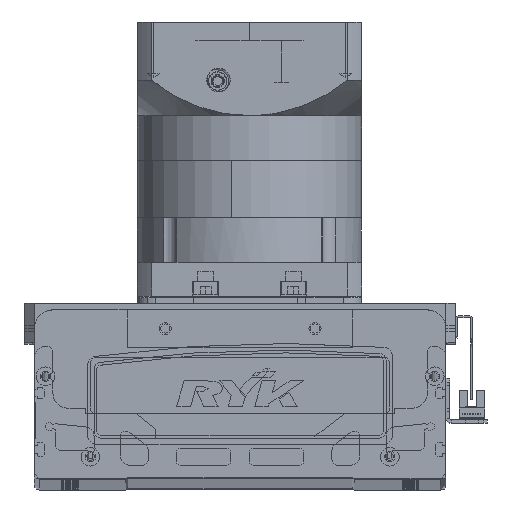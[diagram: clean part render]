
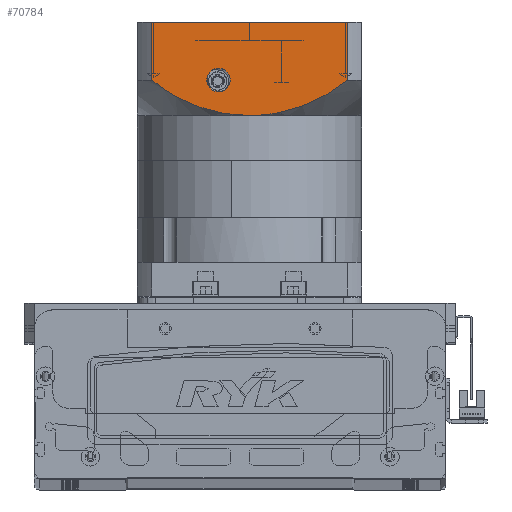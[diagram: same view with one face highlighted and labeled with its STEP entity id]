
A CAD part, top view. The second image highlights one B-rep face of the part: STEP entity #70784.
In plain terms, the highlighted planar face has unit normal (0, 0, 1) as drawn and (0, -1, 0) by its records, which use the part's own axes.
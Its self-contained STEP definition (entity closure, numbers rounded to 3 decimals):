
#3421 = CARTESIAN_POINT ( 'NONE',  ( 23.329, -60., -103.886 ) ) ;
#3681 = CARTESIAN_POINT ( 'NONE',  ( 32.196, -60., -107.007 ) ) ;
#3725 = CIRCLE ( 'NONE', #60860, 6.25 ) ;
#4076 = CARTESIAN_POINT ( 'NONE',  ( -44.656, -60., -113.73 ) ) ;
#4114 = ORIENTED_EDGE ( 'NONE', *, *, #22935, .T. ) ;
#4439 = CARTESIAN_POINT ( 'NONE',  ( 15.267, -60., -101.938 ) ) ;
#4535 = LINE ( 'NONE', #36925, #29497 ) ;
#6100 = CARTESIAN_POINT ( 'NONE',  ( -60., -60., -150.5 ) ) ;
#8431 = CARTESIAN_POINT ( 'NONE',  ( -52.156, -60., -150.5 ) ) ;
#8641 = AXIS2_PLACEMENT_3D ( 'NONE', #6100, #49081, #31350 ) ;
#9084 = CARTESIAN_POINT ( 'NONE',  ( 4.753, -60., -100.5 ) ) ;
#10129 = CARTESIAN_POINT ( 'NONE',  ( 44.553, -60., -113.817 ) ) ;
#10740 = CARTESIAN_POINT ( 'NONE',  ( 0., -60., -100.5 ) ) ;
#10768 = CARTESIAN_POINT ( 'NONE',  ( -39.546, -60., -110.776 ) ) ;
#12693 = EDGE_LOOP ( 'NONE', ( #58217, #54529 ) ) ;
#13175 = DIRECTION ( 'NONE',  ( 0., 1., 0. ) ) ;
#13514 = LINE ( 'NONE', #41427, #67924 ) ;
#15162 = ORIENTED_EDGE ( 'NONE', *, *, #44975, .F. ) ;
#15764 = DIRECTION ( 'NONE',  ( 0., 0., 1. ) ) ;
#16058 = CARTESIAN_POINT ( 'NONE',  ( 52.156, -60., -119.5 ) ) ;
#16366 = ORIENTED_EDGE ( 'NONE', *, *, #50978, .T. ) ;
#16710 = CARTESIAN_POINT ( 'NONE',  ( -38.51, -60., -110.207 ) ) ;
#16785 = CARTESIAN_POINT ( 'NONE',  ( 16.5, -60., -125.75 ) ) ;
#17222 = CARTESIAN_POINT ( 'NONE',  ( -23.319, -60., -103.777 ) ) ;
#19154 = DIRECTION ( 'NONE',  ( 0., 0., -1. ) ) ;
#20427 = EDGE_CURVE ( 'NONE', #65605, #34591, #72609, .T. ) ;
#20655 = DIRECTION ( 'NONE',  ( 0., 1., 0. ) ) ;
#21449 = VECTOR ( 'NONE', #15764, 1000. ) ;
#21498 = CARTESIAN_POINT ( 'NONE',  ( 52.156, -60., -150.5 ) ) ;
#21916 = CARTESIAN_POINT ( 'NONE',  ( -52.156, -60., -119.5 ) ) ;
#22374 = CARTESIAN_POINT ( 'NONE',  ( 16.5, -60., -113.25 ) ) ;
#22670 = CARTESIAN_POINT ( 'NONE',  ( -36.409, -60., -109.113 ) ) ;
#22916 = CARTESIAN_POINT ( 'NONE',  ( -12.993, -60., -101.537 ) ) ;
#22935 = EDGE_CURVE ( 'NONE', #35638, #74622, #4535, .T. ) ;
#23170 = CARTESIAN_POINT ( 'NONE',  ( 0., -60., -100.5 ) ) ;
#26856 = EDGE_CURVE ( 'NONE', #26990, #38694, #31325, .T. ) ;
#26990 = VERTEX_POINT ( 'NONE', #22374 ) ;
#28848 = CARTESIAN_POINT ( 'NONE',  ( -29.939, -60., -106.183 ) ) ;
#29497 = VECTOR ( 'NONE', #31474, 1000. ) ;
#29502 = EDGE_LOOP ( 'NONE', ( #15162, #4114, #16366, #73010, #60464 ) ) ;
#30007 = FACE_BOUND ( 'NONE', #12693, .T. ) ;
#30685 = CARTESIAN_POINT ( 'NONE',  ( -52.156, -60., -119.5 ) ) ;
#31325 = CIRCLE ( 'NONE', #73743, 6.25 ) ;
#31350 = DIRECTION ( 'NONE',  ( 1., 0., 0. ) ) ;
#31474 = DIRECTION ( 'NONE',  ( 1., 0., 0. ) ) ;
#32853 = CARTESIAN_POINT ( 'NONE',  ( 48.457, -60., -116.522 ) ) ;
#33244 = CARTESIAN_POINT ( 'NONE',  ( -35.342, -60., -108.587 ) ) ;
#33374 = CARTESIAN_POINT ( 'NONE',  ( 19.894, -60., -102.964 ) ) ;
#34547 = CARTESIAN_POINT ( 'NONE',  ( -11.825, -60., -101.356 ) ) ;
#34591 = VERTEX_POINT ( 'NONE', #38572 ) ;
#35054 = CARTESIAN_POINT ( 'NONE',  ( -32.118, -60., -107.084 ) ) ;
#35307 = CARTESIAN_POINT ( 'NONE',  ( -8.294, -60., -100.916 ) ) ;
#35638 = VERTEX_POINT ( 'NONE', #8431 ) ;
#36481 = FACE_OUTER_BOUND ( 'NONE', #29502, .T. ) ;
#36925 = CARTESIAN_POINT ( 'NONE',  ( -60., -60., -150.5 ) ) ;
#37427 = DIRECTION ( 'NONE',  ( 0., 0., -1. ) ) ;
#38572 = CARTESIAN_POINT ( 'NONE',  ( 52.156, -60., -119.5 ) ) ;
#38694 = VERTEX_POINT ( 'NONE', #16785 ) ;
#39319 = CARTESIAN_POINT ( 'NONE',  ( 36.444, -60., -108.986 ) ) ;
#41172 = PLANE ( 'NONE',  #8641 ) ;
#41427 = CARTESIAN_POINT ( 'NONE',  ( -52.156, -60., -97.5 ) ) ;
#41979 = VERTEX_POINT ( 'NONE', #30685 ) ;
#44975 = EDGE_CURVE ( 'NONE', #35638, #41979, #13514, .T. ) ;
#45434 = CARTESIAN_POINT ( 'NONE',  ( 41.545, -60., -111.931 ) ) ;
#46312 = CARTESIAN_POINT ( 'NONE',  ( -18.792, -60., -102.562 ) ) ;
#49081 = DIRECTION ( 'NONE',  ( 0., -1., 0. ) ) ;
#50576 = CARTESIAN_POINT ( 'NONE',  ( 25.577, -60., -104.596 ) ) ;
#50978 = EDGE_CURVE ( 'NONE', #74622, #34591, #53627, .T. ) ;
#51344 = CARTESIAN_POINT ( 'NONE',  ( 45.542, -60., -114.478 ) ) ;
#53627 = LINE ( 'NONE', #55951, #21449 ) ;
#54169 = CARTESIAN_POINT ( 'NONE',  ( 16.5, -60., -119.5 ) ) ;
#54529 = ORIENTED_EDGE ( 'NONE', *, *, #26856, .T. ) ;
#55648 = CARTESIAN_POINT ( 'NONE',  ( 16.5, -60., -119.5 ) ) ;
#55951 = CARTESIAN_POINT ( 'NONE',  ( 52.156, -60., -150.5 ) ) ;
#56244 = CARTESIAN_POINT ( 'NONE',  ( 9.454, -60., -100.914 ) ) ;
#57679 = CARTESIAN_POINT ( 'NONE',  ( -48.52, -60., -116.438 ) ) ;
#58217 = ORIENTED_EDGE ( 'NONE', *, *, #60248, .T. ) ;
#58927 = CARTESIAN_POINT ( 'NONE',  ( -2.376, -60., -100.5 ) ) ;
#59448 = EDGE_CURVE ( 'NONE', #41979, #65605, #74873, .T. ) ;
#60248 = EDGE_CURVE ( 'NONE', #38694, #26990, #3725, .T. ) ;
#60464 = ORIENTED_EDGE ( 'NONE', *, *, #59448, .F. ) ;
#60860 = AXIS2_PLACEMENT_3D ( 'NONE', #54169, #13175, #19154 ) ;
#62690 = CARTESIAN_POINT ( 'NONE',  ( 18.739, -60., -102.681 ) ) ;
#65090 = CARTESIAN_POINT ( 'NONE',  ( -4.747, -60., -100.604 ) ) ;
#65605 = VERTEX_POINT ( 'NONE', #10740 ) ;
#67924 = VECTOR ( 'NONE', #71253, 1000. ) ;
#68095 = CARTESIAN_POINT ( 'NONE',  ( 42.555, -60., -112.543 ) ) ;
#70784 = ADVANCED_FACE ( 'NONE', ( #36481, #30007 ), #41172, .T. ) ;
#71253 = DIRECTION ( 'NONE',  ( 0., 0., 1. ) ) ;
#72609 = B_SPLINE_CURVE_WITH_KNOTS ( 'NONE', 3,
 ( #75049, #9084, #56244, #4439, #74791, #62690, #33374, #3421, #50576, #3681, #39319, #45434, #68095, #10129, #51344, #32853, #74021, #16058 ),
 .UNSPECIFIED., .F., .F.,
 ( 4, 2, 2, 2, 2, 2, 2, 2, 4 ),
 ( 0., 0.014, 0.018, 0.021, 0.028, 0.042, 0.046, 0.05, 0.057 ),
 .UNSPECIFIED. ) ;
#73010 = ORIENTED_EDGE ( 'NONE', *, *, #20427, .F. ) ;
#73743 = AXIS2_PLACEMENT_3D ( 'NONE', #55648, #20655, #37427 ) ;
#74021 = CARTESIAN_POINT ( 'NONE',  ( 50.338, -60., -117.969 ) ) ;
#74622 = VERTEX_POINT ( 'NONE', #21498 ) ;
#74791 = CARTESIAN_POINT ( 'NONE',  ( 16.426, -60., -102.169 ) ) ;
#74873 = B_SPLINE_CURVE_WITH_KNOTS ( 'NONE', 3,
 ( #21916, #57679, #4076, #10768, #16710, #22670, #33244, #35054, #28848, #17222, #46312, #22916, #34547, #75690, #35307, #65090, #58927, #23170 ),
 .UNSPECIFIED., .F., .F.,
 ( 4, 2, 2, 2, 2, 2, 2, 2, 4 ),
 ( 0., 0.014, 0.018, 0.021, 0.028, 0.042, 0.046, 0.05, 0.057 ),
 .UNSPECIFIED. ) ;
#75049 = CARTESIAN_POINT ( 'NONE',  ( 0., -60., -100.5 ) ) ;
#75690 = CARTESIAN_POINT ( 'NONE',  ( -9.477, -60., -101.046 ) ) ;
